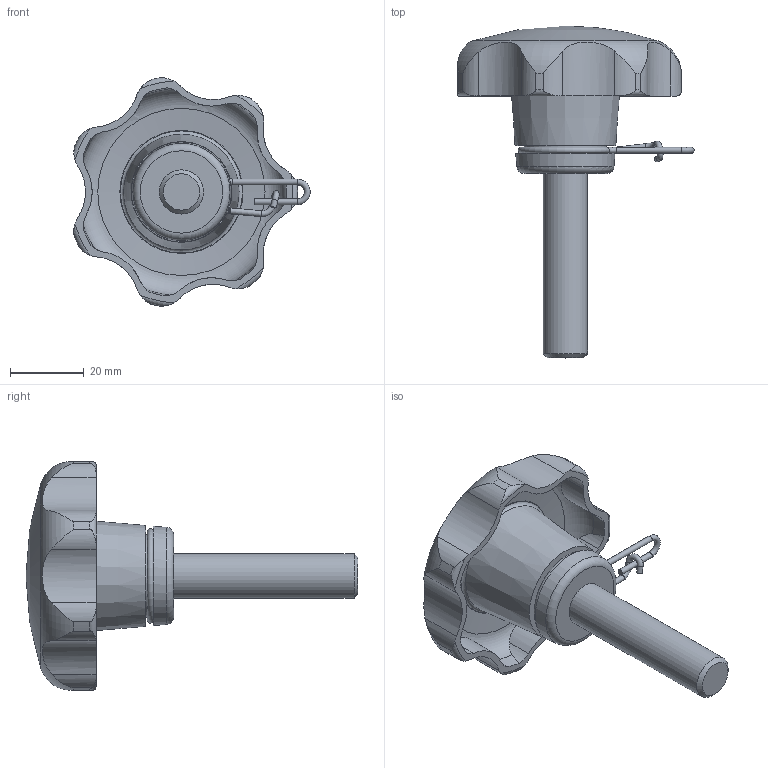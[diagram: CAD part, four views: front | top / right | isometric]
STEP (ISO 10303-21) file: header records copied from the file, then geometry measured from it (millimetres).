
FILE_DESCRIPTION( ( 'STEP AP203' ), '1' );
FILE_NAME( 'C:/Temp/Ganter_Step_05_03_2020/data/2_2/gn_6336_13/gn_6336_13_2/Star knob GN 6336.13-63-M12-50-A.stp', '2020-03-05T12:11:20', ( 'License CC BY-ND 4.0' ), ( 'CADENAS' ), ' ', 'PARTsolutions', ' ' );
FILE_SCHEMA( ( 'CONFIG_CONTROL_DESIGN' ) );
Length unit declared in the file: millimetre
Products named in the file (1): _Star knob GN 6336.13-63-M12-50-A
Bounding box: 64.07 x 90 x 61.94 mm (x, y, z)
Volume: 46615.5 mm3; surface area: 14547.7 mm2
Topology: 1 solids, 1 shells, 100 faces, 268 edges, 174 vertices
Faces by surface type: cylinder 59, torus 18, plane 11, cone 11, sphere 1
Full cylindrical faces by diameter (mm): 1.6 x6, 12 x1, 22.3 x1
Entity records: 3980 total; most frequent: CARTESIAN_POINT 1605, DIRECTION 480, ORIENTED_EDGE 476, EDGE_CURVE 238, AXIS2_PLACEMENT_3D 215, VERTEX_POINT 170, EDGE_LOOP 127, FACE_OUTER_BOUND 118
